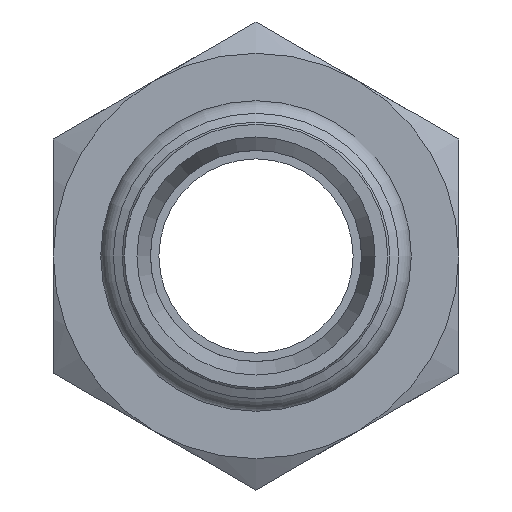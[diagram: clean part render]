
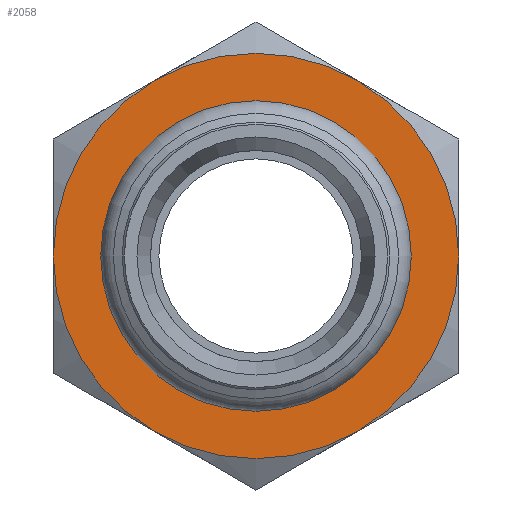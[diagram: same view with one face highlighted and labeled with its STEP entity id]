
A CAD part, left-side view. The second image highlights one B-rep face of the part: STEP entity #2058.
In plain terms, the highlighted planar face has unit normal (-1, 0, 0) as drawn and (0, 0, 1) by its records, which use the part's own axes.
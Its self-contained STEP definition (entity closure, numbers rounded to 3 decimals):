
#1424=CARTESIAN_POINT('',(16.0,0.,0.0));
#1425=VERTEX_POINT('',#1424);
#1426=CARTESIAN_POINT('',(0.0,0.0,0.0));
#1427=DIRECTION('',(0.0,0.0,-1.0));
#1428=DIRECTION('',(-1.0,0.0,0.0));
#1429=AXIS2_PLACEMENT_3D('',#1426,#1427,#1428);
#1430=CIRCLE('',#1429,16.0);
#1431=EDGE_CURVE('',#1425,#1425,#1430,.T.);
#1443=CARTESIAN_POINT('',(0.0,-24.,0.0));
#1444=VERTEX_POINT('',#1443);
#1458=CARTESIAN_POINT('',(20.785,-12.,0.0));
#1459=VERTEX_POINT('',#1458);
#1473=CARTESIAN_POINT('',(0.0,0.0,0.0));
#1474=DIRECTION('',(0.0,0.0,1.0));
#1475=DIRECTION('',(1.0,0.0,0.0));
#1476=AXIS2_PLACEMENT_3D('',#1473,#1474,#1475);
#1477=CIRCLE('',#1476,24.);
#1478=EDGE_CURVE('',#1444,#1459,#1477,.T.);
#1490=CARTESIAN_POINT('',(-20.785,-12.,0.0));
#1491=VERTEX_POINT('',#1490);
#1518=CARTESIAN_POINT('',(0.0,0.0,0.0));
#1519=DIRECTION('',(0.0,0.0,1.0));
#1520=DIRECTION('',(1.0,0.0,0.0));
#1521=AXIS2_PLACEMENT_3D('',#1518,#1519,#1520);
#1522=CIRCLE('',#1521,24.);
#1523=EDGE_CURVE('',#1491,#1444,#1522,.T.);
#1535=CARTESIAN_POINT('',(-20.785,12.,0.0));
#1536=VERTEX_POINT('',#1535);
#1563=CARTESIAN_POINT('',(0.0,0.0,0.0));
#1564=DIRECTION('',(0.0,0.0,1.0));
#1565=DIRECTION('',(1.0,0.0,0.0));
#1566=AXIS2_PLACEMENT_3D('',#1563,#1564,#1565);
#1567=CIRCLE('',#1566,24.);
#1568=EDGE_CURVE('',#1536,#1491,#1567,.T.);
#1593=CARTESIAN_POINT('',(0.,24.,0.0));
#1594=VERTEX_POINT('',#1593);
#1595=CARTESIAN_POINT('',(0.0,0.0,0.0));
#1596=DIRECTION('',(0.0,0.0,1.0));
#1597=DIRECTION('',(1.0,0.0,0.0));
#1598=AXIS2_PLACEMENT_3D('',#1595,#1596,#1597);
#1599=CIRCLE('',#1598,24.);
#1600=EDGE_CURVE('',#1594,#1536,#1599,.T.);
#1638=CARTESIAN_POINT('',(20.785,12.,0.0));
#1639=VERTEX_POINT('',#1638);
#1640=CARTESIAN_POINT('',(0.0,0.0,0.0));
#1641=DIRECTION('',(0.0,0.0,1.0));
#1642=DIRECTION('',(1.0,0.0,0.0));
#1643=AXIS2_PLACEMENT_3D('',#1640,#1641,#1642);
#1644=CIRCLE('',#1643,24.);
#1645=EDGE_CURVE('',#1639,#1594,#1644,.T.);
#1683=CARTESIAN_POINT('',(0.0,0.0,0.0));
#1684=DIRECTION('',(0.0,0.0,1.0));
#1685=DIRECTION('',(1.0,0.0,0.0));
#1686=AXIS2_PLACEMENT_3D('',#1683,#1684,#1685);
#1687=CIRCLE('',#1686,24.);
#1688=EDGE_CURVE('',#1459,#1639,#1687,.T.);
#2042=CARTESIAN_POINT('',(0.0,0.,0.0));
#2043=DIRECTION('',(0.0,0.0,1.0));
#2044=DIRECTION('',(1.0,0.0,0.0));
#2045=AXIS2_PLACEMENT_3D('',#2042,#2043,#2044);
#2046=PLANE('',#2045);
#2047=ORIENTED_EDGE('',*,*,#1688,.T.);
#2048=ORIENTED_EDGE('',*,*,#1645,.T.);
#2049=ORIENTED_EDGE('',*,*,#1600,.T.);
#2050=ORIENTED_EDGE('',*,*,#1568,.T.);
#2051=ORIENTED_EDGE('',*,*,#1523,.T.);
#2052=ORIENTED_EDGE('',*,*,#1478,.T.);
#2053=EDGE_LOOP('',(#2047,#2048,#2049,#2050,#2051,#2052));
#2054=FACE_OUTER_BOUND('',#2053,.T.);
#2055=ORIENTED_EDGE('',*,*,#1431,.T.);
#2056=EDGE_LOOP('',(#2055));
#2057=FACE_BOUND('',#2056,.T.);
#2058=ADVANCED_FACE('',(#2054,#2057),#2046,.T.);
